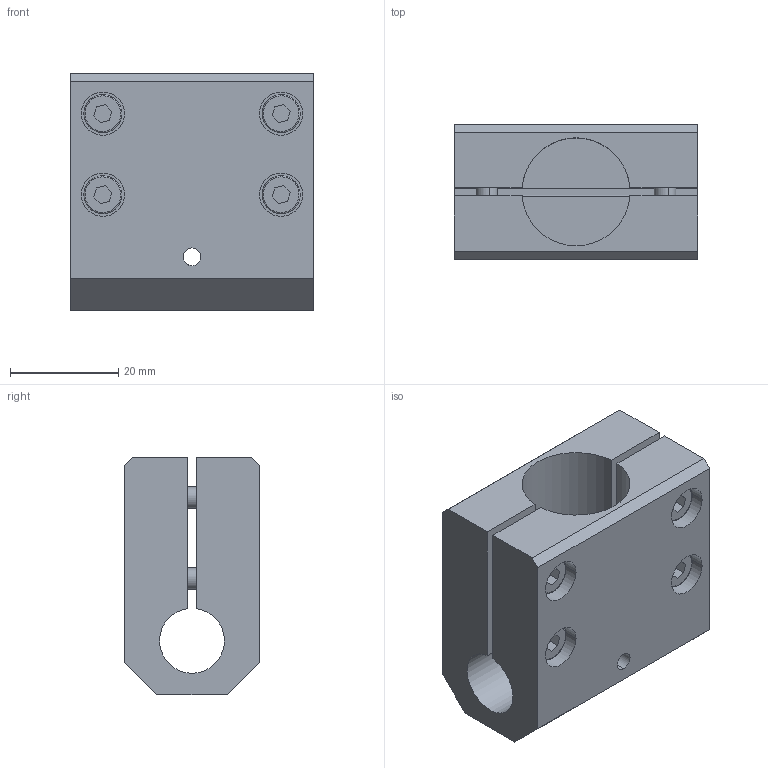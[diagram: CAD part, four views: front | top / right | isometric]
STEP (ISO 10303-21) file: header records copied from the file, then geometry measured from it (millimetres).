
FILE_DESCRIPTION (( 'STEP AP214' ), '1' );
FILE_NAME ('SMBF1-1220.STEP', '2019-11-06T06:24:22', ( '微软用户' ), ( '微软中国' ), 'SwSTEP 2.0', 'SolidWorks 2016', '' );
FILE_SCHEMA (( 'AUTOMOTIVE_DESIGN' ));
Length unit declared in the file: millimetre
Products named in the file (1): SMBF1-1220
Bounding box: 45 x 25 x 44 mm (x, y, z)
Volume: 32314.3 mm3; surface area: 15131.4 mm2
Topology: 9 solids, 9 shells, 906 faces, 2612 edges, 1728 vertices
Faces by surface type: plane 827, cylinder 63, cone 8, bspline 8
Entity records: 40550 total; most frequent: CARTESIAN_POINT 5843, DIRECTION 5264, ORIENTED_EDGE 5224, EDGE_CURVE 2612, AXIS2_PLACEMENT_3D 1773, VERTEX_POINT 1728, LINE 1718, VECTOR 1718
